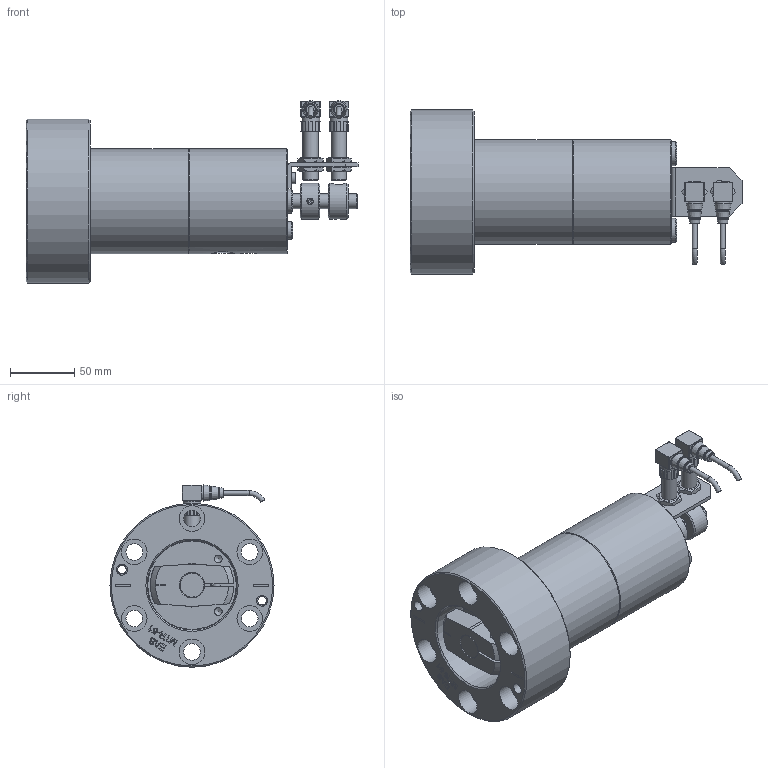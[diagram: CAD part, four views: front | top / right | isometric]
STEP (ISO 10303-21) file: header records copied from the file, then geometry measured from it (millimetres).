
FILE_DESCRIPTION(/* description */ (''),/* implementation_level */ '2;1');
FILE_NAME(/* name */ 'Z:\Standard products\2. QDC Clamping Systems\6. MTR - 3 Pos. Swing Clamp\MTR-51\MTR51 21-11-17.stp',/* time_stamp */ '2017-11-21T10:48:09+01:00',/* author */ ('breep'),/* organization */ (''),/* preprocessor_version */ 'ST-DEVELOPER v16.1',/* originating_system */ 'Autodesk Inventor 2016',/* authorisation */ '');
FILE_SCHEMA (('AUTOMOTIVE_DESIGN { 1 0 10303 214 3 1 1 }'));
Length unit declared in the file: millimetre
Products named in the file (1): Part1
Bounding box: 259 x 127.95 x 142.33 mm (x, y, z)
Volume: 1300668.6 mm3; surface area: 239324.4 mm2
Topology: 2 solids, 52 shells, 1360 faces, 3186 edges, 2012 vertices
Faces by surface type: plane 592, cylinder 347, cone 199, torus 118, bspline 83, sphere 21
Full cylindrical faces by diameter (mm): 0.5 x4, 1.7 x2, 2 x4, 2.5 x2, 3 x4, 3.242 x2, 4 x4, 4.134 x2, 4.5 x1, 4.917 x5, 5 x7, 5.5 x2, 6 x7, 6.647 x8, 7 x5, 8 x6, 8.1 x2, 8.5 x6, 8.566 x4, 9 x8, 9.25 x6, 9.8 x1, 10 x1, 10.917 x2, 11 x5, 11.2 x2, 11.445 x4, 11.5 x5, 11.6 x4, 11.9 x2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
Entity records: 39830 total; most frequent: CARTESIAN_POINT 11167, DIRECTION 5537, ORIENTED_EDGE 4888, EDGE_CURVE 2438, AXIS2_PLACEMENT_3D 2253, EDGE_LOOP 2069, VERTEX_POINT 1803, STYLED_ITEM 1359
